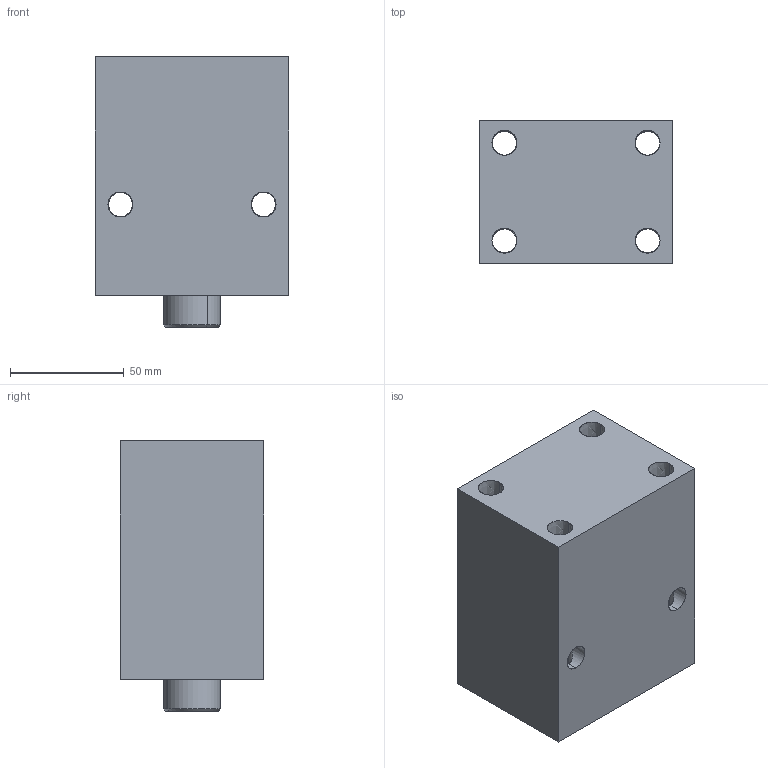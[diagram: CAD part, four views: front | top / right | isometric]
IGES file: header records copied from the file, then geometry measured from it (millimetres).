
Start section: SolidWorks IGES file using analytic representation for surfaces
Global section: file name: D:\karuppas\Clasp\3D model\Block cylinder B01C-Female thread\B01C-350F\Block cylinder_B01C-350F.IGS; native system: SolidWorks 2017; preprocessor: SolidWorks 2017; author: pc; date: 220709.235942; units: millimetre
Bounding box: 85 x 63 x 119 mm (x, y, z)
Surface area: 72284.1 mm2 (no closed solid volume)
Topology: 0 solids, 0 shells, 349 faces, 5363 edges, 5357 vertices
Faces by surface type: bspline 297, revolution 52
